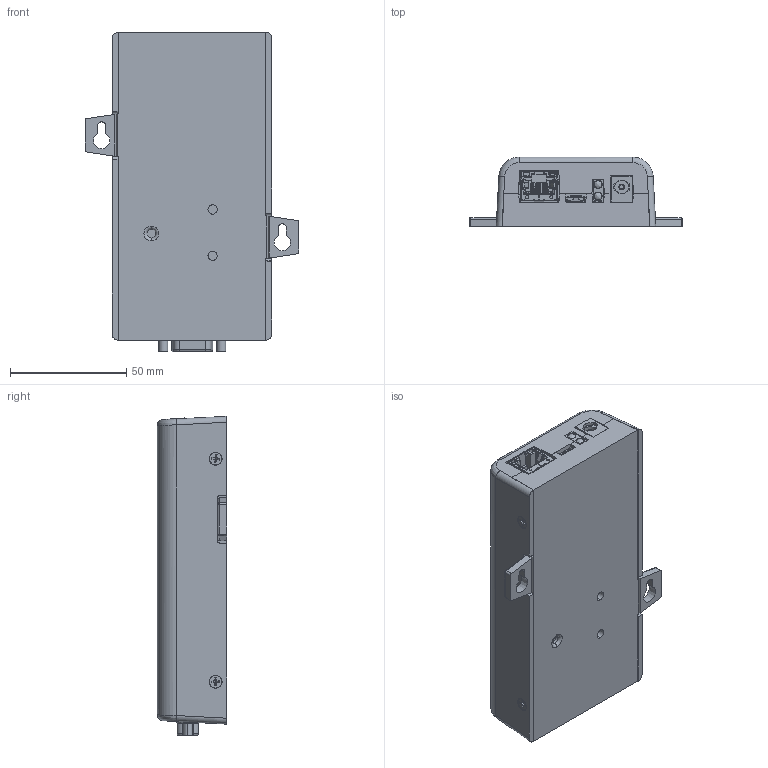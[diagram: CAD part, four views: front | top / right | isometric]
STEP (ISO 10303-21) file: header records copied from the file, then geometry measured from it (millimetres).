
FILE_DESCRIPTION (( 'STEP AP203' ), '1' );
FILE_NAME ('50002079-01 REV B.STEP', '2024-04-08T17:50:56', ( '' ), ( '' ), 'SwSTEP 2.0', 'SolidWorks 2022', '' );
FILE_SCHEMA (( 'CONFIG_CONTROL_DESIGN' ));
Length unit declared in the file: inch
Products named in the file (1): 50002079-01 REV B
Bounding box: 92.21 x 29.84 x 137.63 mm (x, y, z)
Volume: 79816.4 mm3; surface area: 72600.3 mm2
Topology: 22 solids, 24 shells, 2073 faces, 5566 edges, 3594 vertices
Faces by surface type: plane 1234, cylinder 641, cone 102, bspline 80, torus 14, sphere 2
Entity records: 72520 total; most frequent: CARTESIAN_POINT 21536, ORIENTED_EDGE 11100, DIRECTION 9984, EDGE_CURVE 5550, VECTOR 3852, LINE 3852, VERTEX_POINT 3594, AXIS2_PLACEMENT_3D 3066
